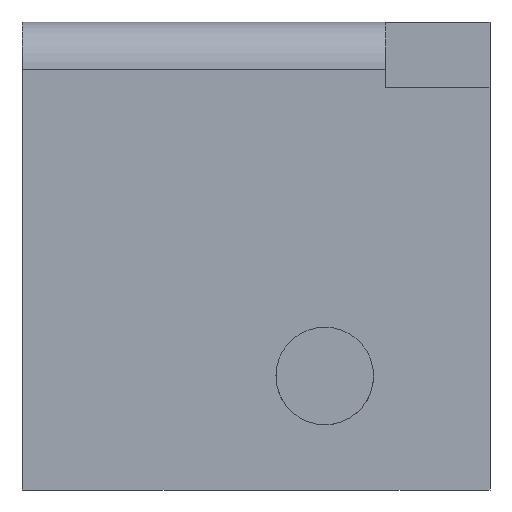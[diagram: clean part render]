
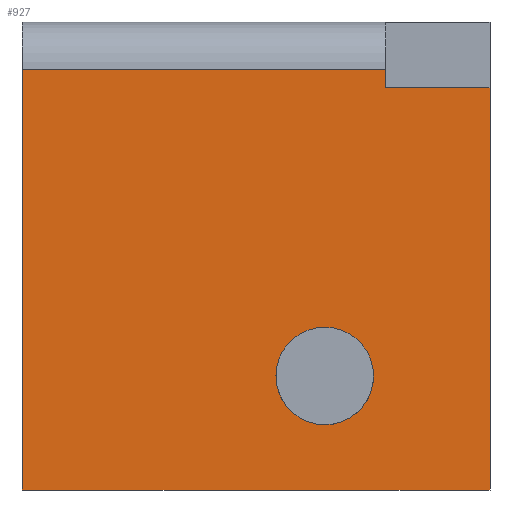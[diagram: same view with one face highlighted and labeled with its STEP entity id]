
A CAD part, front view. The second image highlights one B-rep face of the part: STEP entity #927.
In plain terms, the highlighted planar face has unit normal (0, -1, 0).
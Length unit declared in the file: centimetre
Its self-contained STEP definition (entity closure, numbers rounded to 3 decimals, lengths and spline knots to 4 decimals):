
#4 = CARTESIAN_POINT ( 'NONE',  ( 646.8906, 0., 243.6398 ) ) ;
#30 = ORIENTED_EDGE ( 'NONE', *, *, #946, .F. ) ;
#40 = VERTEX_POINT ( 'NONE', #1292 ) ;
#43 = EDGE_LOOP ( 'NONE', ( #1126, #214 ) ) ;
#58 = AXIS2_PLACEMENT_3D ( 'NONE', #1244, #332, #1263 ) ;
#80 = VECTOR ( 'NONE', #935, 100. ) ;
#82 = DIRECTION ( 'NONE',  ( 0., 0., 1. ) ) ;
#92 = DIRECTION ( 'NONE',  ( 1., 0., 0. ) ) ;
#123 = EDGE_CURVE ( 'NONE', #40, #975, #615, .T. ) ;
#142 = VERTEX_POINT ( 'NONE', #1301 ) ;
#158 = LINE ( 'NONE', #875, #1182 ) ;
#195 = ORIENTED_EDGE ( 'NONE', *, *, #993, .T. ) ;
#196 = PLANE ( 'NONE',  #1315 ) ;
#211 = CARTESIAN_POINT ( 'NONE',  ( 1000., 0., 0. ) ) ;
#214 = ORIENTED_EDGE ( 'NONE', *, *, #358, .F. ) ;
#218 = VERTEX_POINT ( 'NONE', #211 ) ;
#281 = FACE_OUTER_BOUND ( 'NONE', #1208, .T. ) ;
#296 = ORIENTED_EDGE ( 'NONE', *, *, #331, .T. ) ;
#328 = CARTESIAN_POINT ( 'NONE',  ( 1000., 0., 859.1222 ) ) ;
#331 = EDGE_CURVE ( 'NONE', #528, #218, #624, .T. ) ;
#332 = DIRECTION ( 'NONE',  ( 0., -1., 0. ) ) ;
#358 = EDGE_CURVE ( 'NONE', #975, #40, #1059, .T. ) ;
#360 = DIRECTION ( 'NONE',  ( 0., 0., -1. ) ) ;
#363 = VECTOR ( 'NONE', #606, 100. ) ;
#366 = VECTOR ( 'NONE', #92, 100. ) ;
#385 = AXIS2_PLACEMENT_3D ( 'NONE', #4, #907, #992 ) ;
#496 = CARTESIAN_POINT ( 'NONE',  ( 0., 0., 0. ) ) ;
#506 = DIRECTION ( 'NONE',  ( 0., 1., 0. ) ) ;
#518 = DIRECTION ( 'NONE',  ( -1., 0., 0. ) ) ;
#528 = VERTEX_POINT ( 'NONE', #496 ) ;
#548 = EDGE_CURVE ( 'NONE', #1116, #1149, #1008, .T. ) ;
#606 = DIRECTION ( 'NONE',  ( 0., 0., -1. ) ) ;
#615 = CIRCLE ( 'NONE', #385, 104.307 ) ;
#624 = LINE ( 'NONE', #644, #80 ) ;
#629 = CARTESIAN_POINT ( 'NONE',  ( 0., 0., 897.726 ) ) ;
#644 = CARTESIAN_POINT ( 'NONE',  ( 0., 0., 0. ) ) ;
#679 = VECTOR ( 'NONE', #82, 100. ) ;
#691 = CARTESIAN_POINT ( 'NONE',  ( 1000., 0., 1000. ) ) ;
#709 = EDGE_CURVE ( 'NONE', #764, #142, #934, .T. ) ;
#717 = CARTESIAN_POINT ( 'NONE',  ( 777.5775, 0., 859.1222 ) ) ;
#719 = ORIENTED_EDGE ( 'NONE', *, *, #809, .T. ) ;
#728 = CARTESIAN_POINT ( 'NONE',  ( 777.5775, 0., 897.726 ) ) ;
#764 = VERTEX_POINT ( 'NONE', #728 ) ;
#807 = CARTESIAN_POINT ( 'NONE',  ( 646.8906, 0., 347.9468 ) ) ;
#809 = EDGE_CURVE ( 'NONE', #142, #528, #158, .T. ) ;
#838 = ORIENTED_EDGE ( 'NONE', *, *, #548, .F. ) ;
#875 = CARTESIAN_POINT ( 'NONE',  ( 0., 0., 1000. ) ) ;
#907 = DIRECTION ( 'NONE',  ( 0., -1., 0. ) ) ;
#917 = DIRECTION ( 'NONE',  ( 0., 0., 1. ) ) ;
#927 = ADVANCED_FACE ( 'NONE', ( #990, #281 ), #196, .F. ) ;
#934 = LINE ( 'NONE', #629, #1001 ) ;
#935 = DIRECTION ( 'NONE',  ( 1., 0., 0. ) ) ;
#946 = EDGE_CURVE ( 'NONE', #1149, #218, #1006, .T. ) ;
#975 = VERTEX_POINT ( 'NONE', #807 ) ;
#990 = FACE_BOUND ( 'NONE', #43, .T. ) ;
#992 = DIRECTION ( 'NONE',  ( 0., 0., -1. ) ) ;
#993 = EDGE_CURVE ( 'NONE', #1116, #764, #996, .T. ) ;
#996 = LINE ( 'NONE', #1209, #679 ) ;
#1001 = VECTOR ( 'NONE', #518, 100. ) ;
#1006 = LINE ( 'NONE', #691, #363 ) ;
#1008 = LINE ( 'NONE', #1305, #366 ) ;
#1059 = CIRCLE ( 'NONE', #58, 104.307 ) ;
#1116 = VERTEX_POINT ( 'NONE', #717 ) ;
#1126 = ORIENTED_EDGE ( 'NONE', *, *, #123, .F. ) ;
#1149 = VERTEX_POINT ( 'NONE', #328 ) ;
#1182 = VECTOR ( 'NONE', #360, 100. ) ;
#1208 = EDGE_LOOP ( 'NONE', ( #838, #195, #1218, #719, #296, #30 ) ) ;
#1209 = CARTESIAN_POINT ( 'NONE',  ( 777.5775, 0., 859.1222 ) ) ;
#1218 = ORIENTED_EDGE ( 'NONE', *, *, #709, .T. ) ;
#1244 = CARTESIAN_POINT ( 'NONE',  ( 646.8906, 0., 243.6398 ) ) ;
#1263 = DIRECTION ( 'NONE',  ( 0., 0., -1. ) ) ;
#1292 = CARTESIAN_POINT ( 'NONE',  ( 646.8906, 0., 139.3328 ) ) ;
#1301 = CARTESIAN_POINT ( 'NONE',  ( 0., 0., 897.726 ) ) ;
#1305 = CARTESIAN_POINT ( 'NONE',  ( 777.5775, 0., 859.1222 ) ) ;
#1309 = CARTESIAN_POINT ( 'NONE',  ( 0., 0., 1000. ) ) ;
#1315 = AXIS2_PLACEMENT_3D ( 'NONE', #1309, #506, #917 ) ;
